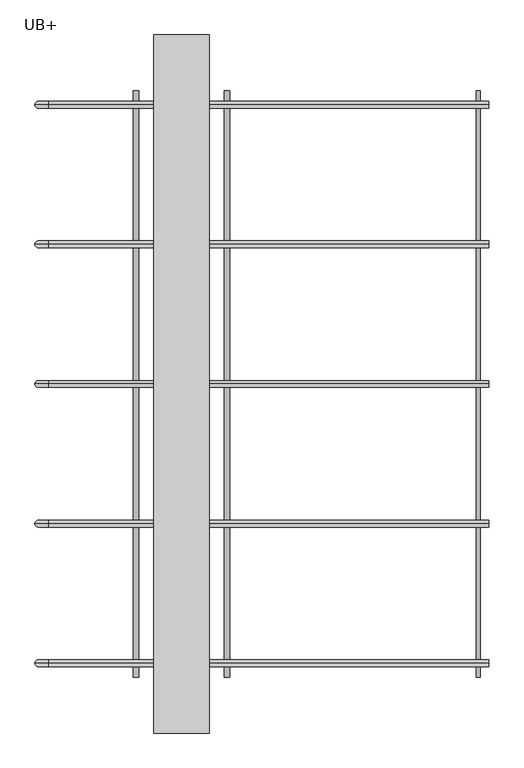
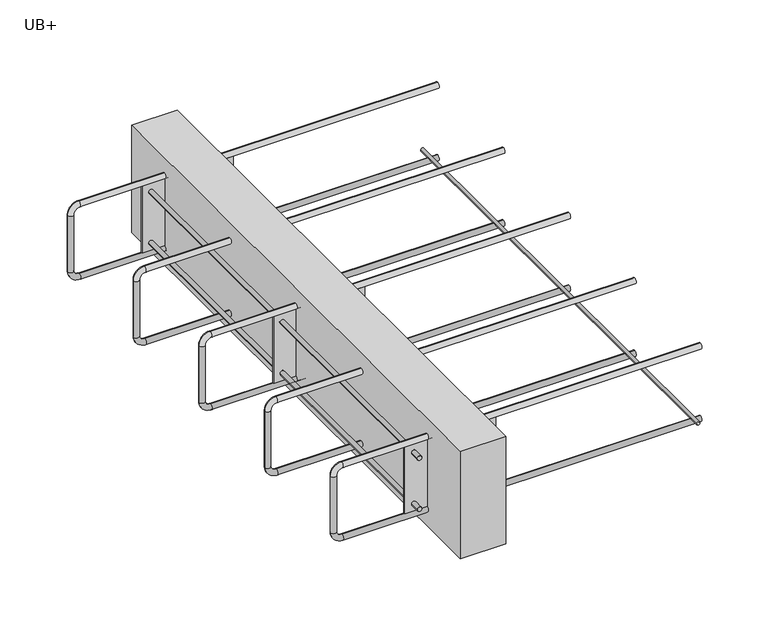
"""IFC4 building model written with IfcOpenShell, lengths in millimetres: fastener geometry, ACINOXplus_Typenreihe_Ux-Ox : UB+."""

from ifc_helpers import new_model, si_unit, point, frame, frame_2d, origin, place, context, project, spatial, polyline, circle_curve, ellipse_curve, trimmed, segment, composite_curve, outline, extrude, source, transform, mapped, element, save
from ifc_brep_helpers import plane_surface, cylinder_surface, revolved_surface, advanced_brep


def ub_eebb4c11(model_context):
    return source(origin(), model_context, "Body", "SolidModel", [
        extrude(outline(composite_curve([segment(trimmed(circle_curve(frame_2d((-159.5, 425.0)), 3.0), [point((-159.5, 428.0))], [point((-159.5, 422.0))], False, "CARTESIAN"), True, "CONTINUOUS"), segment(trimmed(circle_curve(frame_2d((-159.5, 425.0)), 3.0), [point((-159.5, 422.0))], [point((-159.5, 428.0))], False, "CARTESIAN"), True, "CONTINUOUS")], self_intersect=False)), frame((0.0, -420.0, 0.0), z_axis=(0.0, 1.0, 0.0), x_axis=(0.0, 0.0, 1.0)), (0.0, 0.0, 1.0), 840.0),
        extrude(outline(polyline([(40.0, 500.0), (40.0, -500.0), (-40.0, -500.0), (-40.0, 500.0), (40.0, 500.0)])), frame((0.0, 0.0, -200.0), z_axis=(0.0, 0.0, 1.0), x_axis=(1.0, 0.0, 0.0)), (0.0, 0.0, 1.0), 200.0),
        extrude(outline(polyline([(80.0, 1.5), (80.0, -1.5), (-80.0, -1.5), (-80.0, 1.5), (80.0, 1.5)])), frame((0.0, 0.0, -162.5), z_axis=(0.0, 0.0, 1.0), x_axis=(1.0, 0.0, 0.0)), (0.0, 0.0, 1.0), 125.0),
        extrude(outline(polyline([(80.0, -398.5), (80.0, -401.5), (-80.0, -401.5), (-80.0, -398.5), (80.0, -398.5)])), frame((0.0, 0.0, -162.5), z_axis=(0.0, 0.0, 1.0), x_axis=(1.0, 0.0, 0.0)), (0.0, 0.0, 1.0), 125.0),
        extrude(outline(polyline([(80.0, 401.5), (80.0, 398.5), (-80.0, 398.5), (-80.0, 401.5), (80.0, 401.5)])), frame((0.0, 0.0, -162.5), z_axis=(0.0, 0.0, 1.0), x_axis=(1.0, 0.0, 0.0)), (0.0, 0.0, 1.0), 125.0),
        extrude(outline(composite_curve([segment(trimmed(circle_curve(frame_2d((-147.5, -65.0)), 4.0), [point((-147.5, -61.0))], [point((-147.5, -69.0))], False, "CARTESIAN"), True, "CONTINUOUS"), segment(trimmed(circle_curve(frame_2d((-147.5, -65.0)), 4.0), [point((-147.5, -69.0))], [point((-147.5, -61.0))], False, "CARTESIAN"), True, "CONTINUOUS")], self_intersect=False)), frame((0.0, -420.0, 0.0), z_axis=(0.0, 1.0, 0.0), x_axis=(0.0, 0.0, 1.0)), (0.0, 0.0, 1.0), 18.5),
        extrude(outline(composite_curve([segment(trimmed(circle_curve(frame_2d((-147.5, -65.0)), 4.0), [point((-147.5, -69.0))], [point((-147.5, -61.0))], False, "CARTESIAN"), True, "CONTINUOUS"), segment(trimmed(circle_curve(frame_2d((-147.5, -65.0)), 4.0), [point((-147.5, -61.0))], [point((-147.5, -69.0))], False, "CARTESIAN"), True, "CONTINUOUS")], self_intersect=False)), frame((0.0, -398.5, 0.0), z_axis=(0.0, 1.0, 0.0), x_axis=(0.0, 0.0, 1.0)), (0.0, 0.0, 1.0), 397.0),
        extrude(outline(composite_curve([segment(trimmed(circle_curve(frame_2d((-147.5, -65.0)), 4.0), [point((-147.5, -69.0))], [point((-147.5, -61.0))], False, "CARTESIAN"), True, "CONTINUOUS"), segment(trimmed(circle_curve(frame_2d((-147.5, -65.0)), 4.0), [point((-147.5, -61.0))], [point((-147.5, -69.0))], False, "CARTESIAN"), True, "CONTINUOUS")], self_intersect=False)), frame((0.0, 401.5, 0.0), z_axis=(0.0, 1.0, 0.0), x_axis=(0.0, 0.0, 1.0)), (0.0, 0.0, 1.0), 18.5),
        extrude(outline(composite_curve([segment(trimmed(circle_curve(frame_2d((-147.5, -65.0)), 4.0), [point((-147.5, -69.0))], [point((-147.5, -61.0))], False, "CARTESIAN"), True, "CONTINUOUS"), segment(trimmed(circle_curve(frame_2d((-147.5, -65.0)), 4.0), [point((-147.5, -61.0))], [point((-147.5, -69.0))], False, "CARTESIAN"), True, "CONTINUOUS")], self_intersect=False)), frame((0.0, 1.5, 0.0), z_axis=(0.0, 1.0, 0.0), x_axis=(0.0, 0.0, 1.0)), (0.0, 0.0, 1.0), 397.0),
        extrude(outline(composite_curve([segment(trimmed(circle_curve(frame_2d((-147.5, 65.0)), 4.0), [point((-147.5, 69.0))], [point((-147.5, 61.0))], False, "CARTESIAN"), True, "CONTINUOUS"), segment(trimmed(circle_curve(frame_2d((-147.5, 65.0)), 4.0), [point((-147.5, 61.0))], [point((-147.5, 69.0))], False, "CARTESIAN"), True, "CONTINUOUS")], self_intersect=False)), frame((0.0, -420.0, 0.0), z_axis=(0.0, 1.0, 0.0), x_axis=(0.0, 0.0, 1.0)), (0.0, 0.0, 1.0), 18.5),
        extrude(outline(composite_curve([segment(trimmed(circle_curve(frame_2d((-147.5, 65.0)), 4.0), [point((-147.5, 61.0))], [point((-147.5, 69.0))], False, "CARTESIAN"), True, "CONTINUOUS"), segment(trimmed(circle_curve(frame_2d((-147.5, 65.0)), 4.0), [point((-147.5, 69.0))], [point((-147.5, 61.0))], False, "CARTESIAN"), True, "CONTINUOUS")], self_intersect=False)), frame((0.0, -398.5, 0.0), z_axis=(0.0, 1.0, 0.0), x_axis=(0.0, 0.0, 1.0)), (0.0, 0.0, 1.0), 397.0),
        extrude(outline(composite_curve([segment(trimmed(circle_curve(frame_2d((-147.5, 65.0)), 4.0), [point((-147.5, 61.0))], [point((-147.5, 69.0))], False, "CARTESIAN"), True, "CONTINUOUS"), segment(trimmed(circle_curve(frame_2d((-147.5, 65.0)), 4.0), [point((-147.5, 69.0))], [point((-147.5, 61.0))], False, "CARTESIAN"), True, "CONTINUOUS")], self_intersect=False)), frame((0.0, 401.5, 0.0), z_axis=(0.0, 1.0, 0.0), x_axis=(0.0, 0.0, 1.0)), (0.0, 0.0, 1.0), 18.5),
        extrude(outline(composite_curve([segment(trimmed(circle_curve(frame_2d((-147.5, 65.0)), 4.0), [point((-147.5, 61.0))], [point((-147.5, 69.0))], False, "CARTESIAN"), True, "CONTINUOUS"), segment(trimmed(circle_curve(frame_2d((-147.5, 65.0)), 4.0), [point((-147.5, 69.0))], [point((-147.5, 61.0))], False, "CARTESIAN"), True, "CONTINUOUS")], self_intersect=False)), frame((0.0, 1.5, 0.0), z_axis=(0.0, 1.0, 0.0), x_axis=(0.0, 0.0, 1.0)), (0.0, 0.0, 1.0), 397.0),
        extrude(outline(composite_curve([segment(trimmed(circle_curve(frame_2d((-52.5, -65.0)), 4.0), [point((-52.5, -69.0))], [point((-52.5, -61.0))], False, "CARTESIAN"), True, "CONTINUOUS"), segment(trimmed(circle_curve(frame_2d((-52.5, -65.0)), 4.0), [point((-52.5, -61.0))], [point((-52.5, -69.0))], False, "CARTESIAN"), True, "CONTINUOUS")], self_intersect=False)), frame((0.0, 401.5, 0.0), z_axis=(0.0, 1.0, 0.0), x_axis=(0.0, 0.0, 1.0)), (0.0, 0.0, 1.0), 18.5),
        extrude(outline(composite_curve([segment(trimmed(circle_curve(frame_2d((-52.5, -65.0)), 4.0), [point((-52.5, -61.0))], [point((-52.5, -69.0))], False, "CARTESIAN"), True, "CONTINUOUS"), segment(trimmed(circle_curve(frame_2d((-52.5, -65.0)), 4.0), [point((-52.5, -69.0))], [point((-52.5, -61.0))], False, "CARTESIAN"), True, "CONTINUOUS")], self_intersect=False)), frame((0.0, -420.0, 0.0), z_axis=(0.0, 1.0, 0.0), x_axis=(0.0, 0.0, 1.0)), (0.0, 0.0, 1.0), 18.5),
        extrude(outline(composite_curve([segment(trimmed(circle_curve(frame_2d((-52.5, -65.0)), 4.0), [point((-52.5, -69.0))], [point((-52.5, -61.0))], False, "CARTESIAN"), True, "CONTINUOUS"), segment(trimmed(circle_curve(frame_2d((-52.5, -65.0)), 4.0), [point((-52.5, -61.0))], [point((-52.5, -69.0))], False, "CARTESIAN"), True, "CONTINUOUS")], self_intersect=False)), frame((0.0, -398.5, 0.0), z_axis=(0.0, 1.0, 0.0), x_axis=(0.0, 0.0, 1.0)), (0.0, 0.0, 1.0), 397.0),
        extrude(outline(composite_curve([segment(trimmed(circle_curve(frame_2d((-52.5, -65.0)), 4.0), [point((-52.5, -69.0))], [point((-52.5, -61.0))], False, "CARTESIAN"), True, "CONTINUOUS"), segment(trimmed(circle_curve(frame_2d((-52.5, -65.0)), 4.0), [point((-52.5, -61.0))], [point((-52.5, -69.0))], False, "CARTESIAN"), True, "CONTINUOUS")], self_intersect=False)), frame((0.0, 1.5, 0.0), z_axis=(0.0, 1.0, 0.0), x_axis=(0.0, 0.0, 1.0)), (0.0, 0.0, 1.0), 397.0),
        extrude(outline(composite_curve([segment(trimmed(circle_curve(frame_2d((-52.5, 65.0)), 4.0), [point((-52.5, 61.0))], [point((-52.5, 69.0))], False, "CARTESIAN"), True, "CONTINUOUS"), segment(trimmed(circle_curve(frame_2d((-52.5, 65.0)), 4.0), [point((-52.5, 69.0))], [point((-52.5, 61.0))], False, "CARTESIAN"), True, "CONTINUOUS")], self_intersect=False)), frame((0.0, 401.5, 0.0), z_axis=(0.0, 1.0, 0.0), x_axis=(0.0, 0.0, 1.0)), (0.0, 0.0, 1.0), 18.5),
        extrude(outline(composite_curve([segment(trimmed(circle_curve(frame_2d((-52.5, 65.0)), 4.0), [point((-52.5, 69.0))], [point((-52.5, 61.0))], False, "CARTESIAN"), True, "CONTINUOUS"), segment(trimmed(circle_curve(frame_2d((-52.5, 65.0)), 4.0), [point((-52.5, 61.0))], [point((-52.5, 69.0))], False, "CARTESIAN"), True, "CONTINUOUS")], self_intersect=False)), frame((0.0, -420.0, 0.0), z_axis=(0.0, 1.0, 0.0), x_axis=(0.0, 0.0, 1.0)), (0.0, 0.0, 1.0), 18.5),
        extrude(outline(composite_curve([segment(trimmed(circle_curve(frame_2d((-52.5, 65.0)), 4.0), [point((-52.5, 61.0))], [point((-52.5, 69.0))], False, "CARTESIAN"), True, "CONTINUOUS"), segment(trimmed(circle_curve(frame_2d((-52.5, 65.0)), 4.0), [point((-52.5, 69.0))], [point((-52.5, 61.0))], False, "CARTESIAN"), True, "CONTINUOUS")], self_intersect=False)), frame((0.0, -398.5, 0.0), z_axis=(0.0, 1.0, 0.0), x_axis=(0.0, 0.0, 1.0)), (0.0, 0.0, 1.0), 397.0),
        extrude(outline(composite_curve([segment(trimmed(circle_curve(frame_2d((-52.5, 65.0)), 4.0), [point((-52.5, 61.0))], [point((-52.5, 69.0))], False, "CARTESIAN"), True, "CONTINUOUS"), segment(trimmed(circle_curve(frame_2d((-52.5, 65.0)), 4.0), [point((-52.5, 69.0))], [point((-52.5, 61.0))], False, "CARTESIAN"), True, "CONTINUOUS")], self_intersect=False)), frame((0.0, 1.5, 0.0), z_axis=(0.0, 1.0, 0.0), x_axis=(0.0, 0.0, 1.0)), (0.0, 0.0, 1.0), 397.0),
        advanced_brep(
        [(440.0, 200.0, -27.5), (440.0, 200.0, -37.5), (-190.0, 200.0, -27.5), (-190.0, 200.0, -37.5), (-200.0, 200.0, -47.5), (-210.0, 200.0, -47.5), (-210.0, 200.0, -152.5), (-200.0, 200.0, -152.5), (-190.0, 200.0, -162.5), (-190.0, 200.0, -172.5), (440.0, 200.0, -172.5), (440.0, 200.0, -162.5)],
        [
            (0, 1, circle_curve(frame((440.0, 200.0, -32.5), z_axis=(1.0, 0.0, 0.0), x_axis=(0.0, 0.0, -1.0)), 5.0)),
            (1, 0, circle_curve(frame((440.0, 200.0, -32.5), z_axis=(1.0, 0.0, 0.0), x_axis=(0.0, 0.0, -1.0)), 5.0)),
            (0, 2),
            (2, 3, circle_curve(frame((-190.0, 200.0, -32.5), z_axis=(1.0, 0.0, 0.0), x_axis=(0.0, 0.0, -1.0)), 5.0)),
            (3, 1),
            (3, 2, circle_curve(frame((-190.0, 200.0, -32.5), z_axis=(1.0, 0.0, 0.0), x_axis=(0.0, 0.0, -1.0)), 5.0)),
            (4, 3, circle_curve(frame((-190.0, 200.0, -47.5), z_axis=(0.0, 1.0, 0.0), x_axis=(0.0, 0.0, 1.0)), 10.0)),
            (2, 5, circle_curve(frame((-190.0, 200.0, -47.5), z_axis=(0.0, -1.0, 0.0), x_axis=(0.0, 0.0, 1.0)), 20.0)),
            (5, 4, circle_curve(frame((-205.0, 200.0, -47.5), z_axis=(0.0, 0.0, 1.0), x_axis=(1.0, 0.0, 0.0)), 5.0)),
            (4, 5, circle_curve(frame((-205.0, 200.0, -47.5), z_axis=(0.0, 0.0, 1.0), x_axis=(1.0, 0.0, 0.0)), 5.0)),
            (5, 6),
            (6, 7, circle_curve(frame((-205.0, 200.0, -152.5), z_axis=(0.0, 0.0, 1.0), x_axis=(1.0, 0.0, 0.0)), 5.0)),
            (7, 4),
            (7, 6, circle_curve(frame((-205.0, 200.0, -152.5), z_axis=(0.0, 0.0, 1.0), x_axis=(1.0, 0.0, 0.0)), 5.0)),
            (8, 7, circle_curve(frame((-190.0, 200.0, -152.5), z_axis=(0.0, 1.0, 0.0), x_axis=(-1.0, 0.0, 0.0)), 10.0)),
            (6, 9, circle_curve(frame((-190.0, 200.0, -152.5), z_axis=(0.0, -1.0, 0.0), x_axis=(-1.0, 0.0, 0.0)), 20.0)),
            (9, 8, circle_curve(frame((-190.0, 200.0, -167.5), z_axis=(-1.0, 0.0, 0.0), x_axis=(0.0, 0.0, 1.0)), 5.0)),
            (8, 9, circle_curve(frame((-190.0, 200.0, -167.5), z_axis=(-1.0, 0.0, 0.0), x_axis=(0.0, 0.0, 1.0)), 5.0)),
            (10, 11, circle_curve(frame((440.0, 200.0, -167.5), z_axis=(1.0, 0.0, 0.0), x_axis=(0.0, 0.0, 1.0)), 5.0)),
            (11, 10, circle_curve(frame((440.0, 200.0, -167.5), z_axis=(1.0, 0.0, 0.0), x_axis=(0.0, 0.0, 1.0)), 5.0)),
            (9, 10),
            (11, 8),
        ],
        [
            plane_surface(frame((440.0, 200.0, -32.5), z_axis=(1.0, 0.0, 0.0), x_axis=(0.0, -1.0, 0.0))),
            cylinder_surface(frame((440.0, 200.0, -32.5), z_axis=(1.0, 0.0, 0.0), x_axis=(0.0, 0.0, -1.0)), 5.0),
            revolved_surface(trimmed(ellipse_curve(frame((-190.0, 200.0, -32.5), z_axis=(1.0, 0.0, 0.0), x_axis=(0.0, 0.0, -1.0)), 5.0, 5.0), [point((-190.0, 200.0, -27.5))], [point((-190.0, 200.0, -37.5))], True, "CARTESIAN"), (-190.0, 200.0, -47.5), (0.0, -1.0, 0.0)),
            revolved_surface(trimmed(ellipse_curve(frame((-190.0, 200.0, -32.5), z_axis=(1.0, 0.0, 0.0), x_axis=(0.0, 0.0, -1.0)), 5.0, 5.0), [point((-190.0, 200.0, -37.5))], [point((-190.0, 200.0, -27.5))], True, "CARTESIAN"), (-190.0, 200.0, -47.5), (0.0, -1.0, 0.0)),
            cylinder_surface(frame((-205.0, 200.0, -47.5), z_axis=(0.0, 0.0, 1.0), x_axis=(1.0, 0.0, 0.0)), 5.0),
            revolved_surface(trimmed(ellipse_curve(frame((-205.0, 200.0, -152.5), z_axis=(0.0, 0.0, 1.0), x_axis=(1.0, 0.0, 0.0)), 5.0, 5.0), [point((-210.0, 200.0, -152.5))], [point((-200.0, 200.0, -152.5))], True, "CARTESIAN"), (-190.0, 200.0, -152.5), (0.0, -1.0, 0.0)),
            revolved_surface(trimmed(ellipse_curve(frame((-205.0, 200.0, -152.5), z_axis=(0.0, 0.0, 1.0), x_axis=(1.0, 0.0, 0.0)), 5.0, 5.0), [point((-200.0, 200.0, -152.5))], [point((-210.0, 200.0, -152.5))], True, "CARTESIAN"), (-190.0, 200.0, -152.5), (0.0, -1.0, 0.0)),
            plane_surface(frame((440.0, 200.0, -167.5), z_axis=(1.0, 0.0, 0.0), x_axis=(0.0, -1.0, 0.0))),
            cylinder_surface(frame((-190.0, 200.0, -167.5), z_axis=(-1.0, 0.0, 0.0), x_axis=(0.0, 0.0, 1.0)), 5.0),
        ],
        [
            (0, [[1, 2]]),
            (1, [[-1, 3, 4, 5]]),
            (1, [[-2, -5, 6, -3]]),
            (2, [[7, -4, 8, 9]]),
            (3, [[-8, -6, -7, 10]]),
            (4, [[-9, 11, 12, 13]]),
            (4, [[-10, -13, 14, -11]]),
            (5, [[15, -12, 16, 17]]),
            (6, [[-16, -14, -15, 18]]),
            (7, [[19, 20]]),
            (8, [[-17, 21, -20, 22]]),
            (8, [[-18, -22, -19, -21]]),
        ],
    ),
        advanced_brep(
        [(440.0, 0.0, -27.5), (440.0, 0.0, -37.5), (-190.0, 0.0, -27.5), (-190.0, 0.0, -37.5), (-200.0, 0.0, -47.5), (-210.0, 0.0, -47.5), (-210.0, 0.0, -152.5), (-200.0, 0.0, -152.5), (-190.0, 0.0, -162.5), (-190.0, 0.0, -172.5), (440.0, 0.0, -172.5), (440.0, 0.0, -162.5)],
        [
            (0, 1, circle_curve(frame((440.0, 0.0, -32.5), z_axis=(1.0, 0.0, 0.0), x_axis=(0.0, 0.0, -1.0)), 5.0)),
            (1, 0, circle_curve(frame((440.0, 0.0, -32.5), z_axis=(1.0, 0.0, 0.0), x_axis=(0.0, 0.0, -1.0)), 5.0)),
            (0, 2),
            (2, 3, circle_curve(frame((-190.0, 0.0, -32.5), z_axis=(1.0, 0.0, 0.0), x_axis=(0.0, 0.0, -1.0)), 5.0)),
            (3, 1),
            (3, 2, circle_curve(frame((-190.0, 0.0, -32.5), z_axis=(1.0, 0.0, 0.0), x_axis=(0.0, 0.0, -1.0)), 5.0)),
            (4, 3, circle_curve(frame((-190.0, 0.0, -47.5), z_axis=(0.0, 1.0, 0.0), x_axis=(0.0, 0.0, 1.0)), 10.0)),
            (2, 5, circle_curve(frame((-190.0, 0.0, -47.5), z_axis=(0.0, -1.0, 0.0), x_axis=(0.0, 0.0, 1.0)), 20.0)),
            (5, 4, circle_curve(frame((-205.0, 0.0, -47.5), z_axis=(0.0, 0.0, 1.0), x_axis=(1.0, 0.0, 0.0)), 5.0)),
            (4, 5, circle_curve(frame((-205.0, 0.0, -47.5), z_axis=(0.0, 0.0, 1.0), x_axis=(1.0, 0.0, 0.0)), 5.0)),
            (5, 6),
            (6, 7, circle_curve(frame((-205.0, 0.0, -152.5), z_axis=(0.0, 0.0, 1.0), x_axis=(1.0, 0.0, 0.0)), 5.0)),
            (7, 4),
            (7, 6, circle_curve(frame((-205.0, 0.0, -152.5), z_axis=(0.0, 0.0, 1.0), x_axis=(1.0, 0.0, 0.0)), 5.0)),
            (8, 7, circle_curve(frame((-190.0, 0.0, -152.5), z_axis=(0.0, 1.0, 0.0), x_axis=(-1.0, 0.0, 0.0)), 10.0)),
            (6, 9, circle_curve(frame((-190.0, 0.0, -152.5), z_axis=(0.0, -1.0, 0.0), x_axis=(-1.0, 0.0, 0.0)), 20.0)),
            (9, 8, circle_curve(frame((-190.0, 0.0, -167.5), z_axis=(-1.0, 0.0, 0.0), x_axis=(0.0, 0.0, 1.0)), 5.0)),
            (8, 9, circle_curve(frame((-190.0, 0.0, -167.5), z_axis=(-1.0, 0.0, 0.0), x_axis=(0.0, 0.0, 1.0)), 5.0)),
            (10, 11, circle_curve(frame((440.0, 0.0, -167.5), z_axis=(1.0, 0.0, 0.0), x_axis=(0.0, 0.0, 1.0)), 5.0)),
            (11, 10, circle_curve(frame((440.0, 0.0, -167.5), z_axis=(1.0, 0.0, 0.0), x_axis=(0.0, 0.0, 1.0)), 5.0)),
            (9, 10),
            (11, 8),
        ],
        [
            plane_surface(frame((440.0, 0.0, -32.5), z_axis=(1.0, 0.0, 0.0), x_axis=(0.0, -1.0, 0.0))),
            cylinder_surface(frame((440.0, 0.0, -32.5), z_axis=(1.0, 0.0, 0.0), x_axis=(0.0, 0.0, -1.0)), 5.0),
            revolved_surface(trimmed(ellipse_curve(frame((-190.0, 0.0, -32.5), z_axis=(1.0, 0.0, 0.0), x_axis=(0.0, 0.0, -1.0)), 5.0, 5.0), [point((-190.0, 0.0, -27.5))], [point((-190.0, 0.0, -37.5))], True, "CARTESIAN"), (-190.0, 0.0, -47.5), (0.0, -1.0, 0.0)),
            revolved_surface(trimmed(ellipse_curve(frame((-190.0, 0.0, -32.5), z_axis=(1.0, 0.0, 0.0), x_axis=(0.0, 0.0, -1.0)), 5.0, 5.0), [point((-190.0, 0.0, -37.5))], [point((-190.0, 0.0, -27.5))], True, "CARTESIAN"), (-190.0, 0.0, -47.5), (0.0, -1.0, 0.0)),
            cylinder_surface(frame((-205.0, 0.0, -47.5), z_axis=(0.0, 0.0, 1.0), x_axis=(1.0, 0.0, 0.0)), 5.0),
            revolved_surface(trimmed(ellipse_curve(frame((-205.0, 0.0, -152.5), z_axis=(0.0, 0.0, 1.0), x_axis=(1.0, 0.0, 0.0)), 5.0, 5.0), [point((-210.0, 0.0, -152.5))], [point((-200.0, 0.0, -152.5))], True, "CARTESIAN"), (-190.0, 0.0, -152.5), (0.0, -1.0, 0.0)),
            revolved_surface(trimmed(ellipse_curve(frame((-205.0, 0.0, -152.5), z_axis=(0.0, 0.0, 1.0), x_axis=(1.0, 0.0, 0.0)), 5.0, 5.0), [point((-200.0, 0.0, -152.5))], [point((-210.0, 0.0, -152.5))], True, "CARTESIAN"), (-190.0, 0.0, -152.5), (0.0, -1.0, 0.0)),
            plane_surface(frame((440.0, 0.0, -167.5), z_axis=(1.0, 0.0, 0.0), x_axis=(0.0, -1.0, 0.0))),
            cylinder_surface(frame((-190.0, 0.0, -167.5), z_axis=(-1.0, 0.0, 0.0), x_axis=(0.0, 0.0, 1.0)), 5.0),
        ],
        [
            (0, [[1, 2]]),
            (1, [[-1, 3, 4, 5]]),
            (1, [[-2, -5, 6, -3]]),
            (2, [[7, -4, 8, 9]]),
            (3, [[-8, -6, -7, 10]]),
            (4, [[-9, 11, 12, 13]]),
            (4, [[-10, -13, 14, -11]]),
            (5, [[15, -12, 16, 17]]),
            (6, [[-16, -14, -15, 18]]),
            (7, [[19, 20]]),
            (8, [[-17, 21, -20, 22]]),
            (8, [[-18, -22, -19, -21]]),
        ],
    ),
        advanced_brep(
        [(440.0, -200.0, -27.5), (440.0, -200.0, -37.5), (-190.0, -200.0, -27.5), (-190.0, -200.0, -37.5), (-200.0, -200.0, -47.5), (-210.0, -200.0, -47.5), (-210.0, -200.0, -152.5), (-200.0, -200.0, -152.5), (-190.0, -200.0, -162.5), (-190.0, -200.0, -172.5), (440.0, -200.0, -172.5), (440.0, -200.0, -162.5)],
        [
            (0, 1, circle_curve(frame((440.0, -200.0, -32.5), z_axis=(1.0, 0.0, 0.0), x_axis=(0.0, 0.0, -1.0)), 5.0)),
            (1, 0, circle_curve(frame((440.0, -200.0, -32.5), z_axis=(1.0, 0.0, 0.0), x_axis=(0.0, 0.0, -1.0)), 5.0)),
            (0, 2),
            (2, 3, circle_curve(frame((-190.0, -200.0, -32.5), z_axis=(1.0, 0.0, 0.0), x_axis=(0.0, 0.0, -1.0)), 5.0)),
            (3, 1),
            (3, 2, circle_curve(frame((-190.0, -200.0, -32.5), z_axis=(1.0, 0.0, 0.0), x_axis=(0.0, 0.0, -1.0)), 5.0)),
            (4, 3, circle_curve(frame((-190.0, -200.0, -47.5), z_axis=(0.0, 1.0, 0.0), x_axis=(0.0, 0.0, 1.0)), 10.0)),
            (2, 5, circle_curve(frame((-190.0, -200.0, -47.5), z_axis=(0.0, -1.0, 0.0), x_axis=(0.0, 0.0, 1.0)), 20.0)),
            (5, 4, circle_curve(frame((-205.0, -200.0, -47.5), z_axis=(0.0, 0.0, 1.0), x_axis=(1.0, 0.0, 0.0)), 5.0)),
            (4, 5, circle_curve(frame((-205.0, -200.0, -47.5), z_axis=(0.0, 0.0, 1.0), x_axis=(1.0, 0.0, 0.0)), 5.0)),
            (5, 6),
            (6, 7, circle_curve(frame((-205.0, -200.0, -152.5), z_axis=(0.0, 0.0, 1.0), x_axis=(1.0, 0.0, 0.0)), 5.0)),
            (7, 4),
            (7, 6, circle_curve(frame((-205.0, -200.0, -152.5), z_axis=(0.0, 0.0, 1.0), x_axis=(1.0, 0.0, 0.0)), 5.0)),
            (8, 7, circle_curve(frame((-190.0, -200.0, -152.5), z_axis=(0.0, 1.0, 0.0), x_axis=(-1.0, 0.0, 0.0)), 10.0)),
            (6, 9, circle_curve(frame((-190.0, -200.0, -152.5), z_axis=(0.0, -1.0, 0.0), x_axis=(-1.0, 0.0, 0.0)), 20.0)),
            (9, 8, circle_curve(frame((-190.0, -200.0, -167.5), z_axis=(-1.0, 0.0, 0.0), x_axis=(0.0, 0.0, 1.0)), 5.0)),
            (8, 9, circle_curve(frame((-190.0, -200.0, -167.5), z_axis=(-1.0, 0.0, 0.0), x_axis=(0.0, 0.0, 1.0)), 5.0)),
            (10, 11, circle_curve(frame((440.0, -200.0, -167.5), z_axis=(1.0, 0.0, 0.0), x_axis=(0.0, 0.0, 1.0)), 5.0)),
            (11, 10, circle_curve(frame((440.0, -200.0, -167.5), z_axis=(1.0, 0.0, 0.0), x_axis=(0.0, 0.0, 1.0)), 5.0)),
            (9, 10),
            (11, 8),
        ],
        [
            plane_surface(frame((440.0, -200.0, -32.5), z_axis=(1.0, 0.0, 0.0), x_axis=(0.0, -1.0, 0.0))),
            cylinder_surface(frame((440.0, -200.0, -32.5), z_axis=(1.0, 0.0, 0.0), x_axis=(0.0, 0.0, -1.0)), 5.0),
            revolved_surface(trimmed(ellipse_curve(frame((-190.0, -200.0, -32.5), z_axis=(1.0, 0.0, 0.0), x_axis=(0.0, 0.0, -1.0)), 5.0, 5.0), [point((-190.0, -200.0, -27.5))], [point((-190.0, -200.0, -37.5))], True, "CARTESIAN"), (-190.0, -200.0, -47.5), (0.0, -1.0, 0.0)),
            revolved_surface(trimmed(ellipse_curve(frame((-190.0, -200.0, -32.5), z_axis=(1.0, 0.0, 0.0), x_axis=(0.0, 0.0, -1.0)), 5.0, 5.0), [point((-190.0, -200.0, -37.5))], [point((-190.0, -200.0, -27.5))], True, "CARTESIAN"), (-190.0, -200.0, -47.5), (0.0, -1.0, 0.0)),
            cylinder_surface(frame((-205.0, -200.0, -47.5), z_axis=(0.0, 0.0, 1.0), x_axis=(1.0, 0.0, 0.0)), 5.0),
            revolved_surface(trimmed(ellipse_curve(frame((-205.0, -200.0, -152.5), z_axis=(0.0, 0.0, 1.0), x_axis=(1.0, 0.0, 0.0)), 5.0, 5.0), [point((-210.0, -200.0, -152.5))], [point((-200.0, -200.0, -152.5))], True, "CARTESIAN"), (-190.0, -200.0, -152.5), (0.0, -1.0, 0.0)),
            revolved_surface(trimmed(ellipse_curve(frame((-205.0, -200.0, -152.5), z_axis=(0.0, 0.0, 1.0), x_axis=(1.0, 0.0, 0.0)), 5.0, 5.0), [point((-200.0, -200.0, -152.5))], [point((-210.0, -200.0, -152.5))], True, "CARTESIAN"), (-190.0, -200.0, -152.5), (0.0, -1.0, 0.0)),
            plane_surface(frame((440.0, -200.0, -167.5), z_axis=(1.0, 0.0, 0.0), x_axis=(0.0, -1.0, 0.0))),
            cylinder_surface(frame((-190.0, -200.0, -167.5), z_axis=(-1.0, 0.0, 0.0), x_axis=(0.0, 0.0, 1.0)), 5.0),
        ],
        [
            (0, [[1, 2]]),
            (1, [[-1, 3, 4, 5]]),
            (1, [[-2, -5, 6, -3]]),
            (2, [[7, -4, 8, 9]]),
            (3, [[-8, -6, -7, 10]]),
            (4, [[-9, 11, 12, 13]]),
            (4, [[-10, -13, 14, -11]]),
            (5, [[15, -12, 16, 17]]),
            (6, [[-16, -14, -15, 18]]),
            (7, [[19, 20]]),
            (8, [[-17, 21, -20, 22]]),
            (8, [[-18, -22, -19, -21]]),
        ],
    ),
        advanced_brep(
        [(440.0, 400.0, -27.5), (440.0, 400.0, -37.5), (-190.0, 400.0, -27.5), (-190.0, 400.0, -37.5), (-200.0, 400.0, -47.5), (-210.0, 400.0, -47.5), (-210.0, 400.0, -152.5), (-200.0, 400.0, -152.5), (-190.0, 400.0, -162.5), (-190.0, 400.0, -172.5), (440.0, 400.0, -172.5), (440.0, 400.0, -162.5)],
        [
            (0, 1, circle_curve(frame((440.0, 400.0, -32.5), z_axis=(1.0, 0.0, 0.0), x_axis=(0.0, 0.0, -1.0)), 5.0)),
            (1, 0, circle_curve(frame((440.0, 400.0, -32.5), z_axis=(1.0, 0.0, 0.0), x_axis=(0.0, 0.0, -1.0)), 5.0)),
            (0, 2),
            (2, 3, circle_curve(frame((-190.0, 400.0, -32.5), z_axis=(1.0, 0.0, 0.0), x_axis=(0.0, 0.0, -1.0)), 5.0)),
            (3, 1),
            (3, 2, circle_curve(frame((-190.0, 400.0, -32.5), z_axis=(1.0, 0.0, 0.0), x_axis=(0.0, 0.0, -1.0)), 5.0)),
            (4, 3, circle_curve(frame((-190.0, 400.0, -47.5), z_axis=(0.0, 1.0, 0.0), x_axis=(0.0, 0.0, 1.0)), 10.0)),
            (2, 5, circle_curve(frame((-190.0, 400.0, -47.5), z_axis=(0.0, -1.0, 0.0), x_axis=(0.0, 0.0, 1.0)), 20.0)),
            (5, 4, circle_curve(frame((-205.0, 400.0, -47.5), z_axis=(0.0, 0.0, 1.0), x_axis=(1.0, 0.0, 0.0)), 5.0)),
            (4, 5, circle_curve(frame((-205.0, 400.0, -47.5), z_axis=(0.0, 0.0, 1.0), x_axis=(1.0, 0.0, 0.0)), 5.0)),
            (5, 6),
            (6, 7, circle_curve(frame((-205.0, 400.0, -152.5), z_axis=(0.0, 0.0, 1.0), x_axis=(1.0, 0.0, 0.0)), 5.0)),
            (7, 4),
            (7, 6, circle_curve(frame((-205.0, 400.0, -152.5), z_axis=(0.0, 0.0, 1.0), x_axis=(1.0, 0.0, 0.0)), 5.0)),
            (8, 7, circle_curve(frame((-190.0, 400.0, -152.5), z_axis=(0.0, 1.0, 0.0), x_axis=(-1.0, 0.0, 0.0)), 10.0)),
            (6, 9, circle_curve(frame((-190.0, 400.0, -152.5), z_axis=(0.0, -1.0, 0.0), x_axis=(-1.0, 0.0, 0.0)), 20.0)),
            (9, 8, circle_curve(frame((-190.0, 400.0, -167.5), z_axis=(-1.0, 0.0, 0.0), x_axis=(0.0, 0.0, 1.0)), 5.0)),
            (8, 9, circle_curve(frame((-190.0, 400.0, -167.5), z_axis=(-1.0, 0.0, 0.0), x_axis=(0.0, 0.0, 1.0)), 5.0)),
            (10, 11, circle_curve(frame((440.0, 400.0, -167.5), z_axis=(1.0, 0.0, 0.0), x_axis=(0.0, 0.0, 1.0)), 5.0)),
            (11, 10, circle_curve(frame((440.0, 400.0, -167.5), z_axis=(1.0, 0.0, 0.0), x_axis=(0.0, 0.0, 1.0)), 5.0)),
            (9, 10),
            (11, 8),
        ],
        [
            plane_surface(frame((440.0, 400.0, -32.5), z_axis=(1.0, 0.0, 0.0), x_axis=(0.0, -1.0, 0.0))),
            cylinder_surface(frame((440.0, 400.0, -32.5), z_axis=(1.0, 0.0, 0.0), x_axis=(0.0, 0.0, -1.0)), 5.0),
            revolved_surface(trimmed(ellipse_curve(frame((-190.0, 400.0, -32.5), z_axis=(1.0, 0.0, 0.0), x_axis=(0.0, 0.0, -1.0)), 5.0, 5.0), [point((-190.0, 400.0, -27.5))], [point((-190.0, 400.0, -37.5))], True, "CARTESIAN"), (-190.0, 400.0, -47.5), (0.0, -1.0, 0.0)),
            revolved_surface(trimmed(ellipse_curve(frame((-190.0, 400.0, -32.5), z_axis=(1.0, 0.0, 0.0), x_axis=(0.0, 0.0, -1.0)), 5.0, 5.0), [point((-190.0, 400.0, -37.5))], [point((-190.0, 400.0, -27.5))], True, "CARTESIAN"), (-190.0, 400.0, -47.5), (0.0, -1.0, 0.0)),
            cylinder_surface(frame((-205.0, 400.0, -47.5), z_axis=(0.0, 0.0, 1.0), x_axis=(1.0, 0.0, 0.0)), 5.0),
            revolved_surface(trimmed(ellipse_curve(frame((-205.0, 400.0, -152.5), z_axis=(0.0, 0.0, 1.0), x_axis=(1.0, 0.0, 0.0)), 5.0, 5.0), [point((-210.0, 400.0, -152.5))], [point((-200.0, 400.0, -152.5))], True, "CARTESIAN"), (-190.0, 400.0, -152.5), (0.0, -1.0, 0.0)),
            revolved_surface(trimmed(ellipse_curve(frame((-205.0, 400.0, -152.5), z_axis=(0.0, 0.0, 1.0), x_axis=(1.0, 0.0, 0.0)), 5.0, 5.0), [point((-200.0, 400.0, -152.5))], [point((-210.0, 400.0, -152.5))], True, "CARTESIAN"), (-190.0, 400.0, -152.5), (0.0, -1.0, 0.0)),
            plane_surface(frame((440.0, 400.0, -167.5), z_axis=(1.0, 0.0, 0.0), x_axis=(0.0, -1.0, 0.0))),
            cylinder_surface(frame((-190.0, 400.0, -167.5), z_axis=(-1.0, 0.0, 0.0), x_axis=(0.0, 0.0, 1.0)), 5.0),
        ],
        [
            (0, [[1, 2]]),
            (1, [[-1, 3, 4, 5]]),
            (1, [[-2, -5, 6, -3]]),
            (2, [[7, -4, 8, 9]]),
            (3, [[-8, -6, -7, 10]]),
            (4, [[-9, 11, 12, 13]]),
            (4, [[-10, -13, 14, -11]]),
            (5, [[15, -12, 16, 17]]),
            (6, [[-16, -14, -15, 18]]),
            (7, [[19, 20]]),
            (8, [[-17, 21, -20, 22]]),
            (8, [[-18, -22, -19, -21]]),
        ],
    ),
        advanced_brep(
        [(440.0, -400.0, -27.5), (440.0, -400.0, -37.5), (-190.0, -400.0, -27.5), (-190.0, -400.0, -37.5), (-200.0, -400.0, -47.5), (-210.0, -400.0, -47.5), (-210.0, -400.0, -152.5), (-200.0, -400.0, -152.5), (-190.0, -400.0, -162.5), (-190.0, -400.0, -172.5), (440.0, -400.0, -172.5), (440.0, -400.0, -162.5)],
        [
            (0, 1, circle_curve(frame((440.0, -400.0, -32.5), z_axis=(1.0, 0.0, 0.0), x_axis=(0.0, 0.0, -1.0)), 5.0)),
            (1, 0, circle_curve(frame((440.0, -400.0, -32.5), z_axis=(1.0, 0.0, 0.0), x_axis=(0.0, 0.0, -1.0)), 5.0)),
            (0, 2),
            (2, 3, circle_curve(frame((-190.0, -400.0, -32.5), z_axis=(1.0, 0.0, 0.0), x_axis=(0.0, 0.0, -1.0)), 5.0)),
            (3, 1),
            (3, 2, circle_curve(frame((-190.0, -400.0, -32.5), z_axis=(1.0, 0.0, 0.0), x_axis=(0.0, 0.0, -1.0)), 5.0)),
            (4, 3, circle_curve(frame((-190.0, -400.0, -47.5), z_axis=(0.0, 1.0, 0.0), x_axis=(0.0, 0.0, 1.0)), 10.0)),
            (2, 5, circle_curve(frame((-190.0, -400.0, -47.5), z_axis=(0.0, -1.0, 0.0), x_axis=(0.0, 0.0, 1.0)), 20.0)),
            (5, 4, circle_curve(frame((-205.0, -400.0, -47.5), z_axis=(0.0, 0.0, 1.0), x_axis=(1.0, 0.0, 0.0)), 5.0)),
            (4, 5, circle_curve(frame((-205.0, -400.0, -47.5), z_axis=(0.0, 0.0, 1.0), x_axis=(1.0, 0.0, 0.0)), 5.0)),
            (5, 6),
            (6, 7, circle_curve(frame((-205.0, -400.0, -152.5), z_axis=(0.0, 0.0, 1.0), x_axis=(1.0, 0.0, 0.0)), 5.0)),
            (7, 4),
            (7, 6, circle_curve(frame((-205.0, -400.0, -152.5), z_axis=(0.0, 0.0, 1.0), x_axis=(1.0, 0.0, 0.0)), 5.0)),
            (8, 7, circle_curve(frame((-190.0, -400.0, -152.5), z_axis=(0.0, 1.0, 0.0), x_axis=(-1.0, 0.0, 0.0)), 10.0)),
            (6, 9, circle_curve(frame((-190.0, -400.0, -152.5), z_axis=(0.0, -1.0, 0.0), x_axis=(-1.0, 0.0, 0.0)), 20.0)),
            (9, 8, circle_curve(frame((-190.0, -400.0, -167.5), z_axis=(-1.0, 0.0, 0.0), x_axis=(0.0, 0.0, 1.0)), 5.0)),
            (8, 9, circle_curve(frame((-190.0, -400.0, -167.5), z_axis=(-1.0, 0.0, 0.0), x_axis=(0.0, 0.0, 1.0)), 5.0)),
            (10, 11, circle_curve(frame((440.0, -400.0, -167.5), z_axis=(1.0, 0.0, 0.0), x_axis=(0.0, 0.0, 1.0)), 5.0)),
            (11, 10, circle_curve(frame((440.0, -400.0, -167.5), z_axis=(1.0, 0.0, 0.0), x_axis=(0.0, 0.0, 1.0)), 5.0)),
            (9, 10),
            (11, 8),
        ],
        [
            plane_surface(frame((440.0, -400.0, -32.5), z_axis=(1.0, 0.0, 0.0), x_axis=(0.0, -1.0, 0.0))),
            cylinder_surface(frame((440.0, -400.0, -32.5), z_axis=(1.0, 0.0, 0.0), x_axis=(0.0, 0.0, -1.0)), 5.0),
            revolved_surface(trimmed(ellipse_curve(frame((-190.0, -400.0, -32.5), z_axis=(1.0, 0.0, 0.0), x_axis=(0.0, 0.0, -1.0)), 5.0, 5.0), [point((-190.0, -400.0, -27.5))], [point((-190.0, -400.0, -37.5))], True, "CARTESIAN"), (-190.0, -400.0, -47.5), (0.0, -1.0, 0.0)),
            revolved_surface(trimmed(ellipse_curve(frame((-190.0, -400.0, -32.5), z_axis=(1.0, 0.0, 0.0), x_axis=(0.0, 0.0, -1.0)), 5.0, 5.0), [point((-190.0, -400.0, -37.5))], [point((-190.0, -400.0, -27.5))], True, "CARTESIAN"), (-190.0, -400.0, -47.5), (0.0, -1.0, 0.0)),
            cylinder_surface(frame((-205.0, -400.0, -47.5), z_axis=(0.0, 0.0, 1.0), x_axis=(1.0, 0.0, 0.0)), 5.0),
            revolved_surface(trimmed(ellipse_curve(frame((-205.0, -400.0, -152.5), z_axis=(0.0, 0.0, 1.0), x_axis=(1.0, 0.0, 0.0)), 5.0, 5.0), [point((-210.0, -400.0, -152.5))], [point((-200.0, -400.0, -152.5))], True, "CARTESIAN"), (-190.0, -400.0, -152.5), (0.0, -1.0, 0.0)),
            revolved_surface(trimmed(ellipse_curve(frame((-205.0, -400.0, -152.5), z_axis=(0.0, 0.0, 1.0), x_axis=(1.0, 0.0, 0.0)), 5.0, 5.0), [point((-200.0, -400.0, -152.5))], [point((-210.0, -400.0, -152.5))], True, "CARTESIAN"), (-190.0, -400.0, -152.5), (0.0, -1.0, 0.0)),
            plane_surface(frame((440.0, -400.0, -167.5), z_axis=(1.0, 0.0, 0.0), x_axis=(0.0, -1.0, 0.0))),
            cylinder_surface(frame((-190.0, -400.0, -167.5), z_axis=(-1.0, 0.0, 0.0), x_axis=(0.0, 0.0, 1.0)), 5.0),
        ],
        [
            (0, [[1, 2]]),
            (1, [[-1, 3, 4, 5]]),
            (1, [[-2, -5, 6, -3]]),
            (2, [[7, -4, 8, 9]]),
            (3, [[-8, -6, -7, 10]]),
            (4, [[-9, 11, 12, 13]]),
            (4, [[-10, -13, 14, -11]]),
            (5, [[15, -12, 16, 17]]),
            (6, [[-16, -14, -15, 18]]),
            (7, [[19, 20]]),
            (8, [[-17, 21, -20, 22]]),
            (8, [[-18, -22, -19, -21]]),
        ],
    ),
    ])


if __name__ == "__main__":
    model = new_model("IFC4")
    model_context = context("Model", 3, world=origin())
    ifc_project = project(units=[si_unit("LENGTHUNIT", "METRE", prefix="MILLI")], contexts=[model_context])
    site = spatial("IfcSite", under=ifc_project)
    building = spatial("IfcBuilding", under=site)
    placement = place(None, origin())
    ub_shape = ub_eebb4c11(model_context)
    element("IfcFastener", 1, ObjectType="ACINOXplus_Typenreihe_Ux-Ox : UB+", at=placement, inside=building, context=model_context, shape_type="MappedRepresentation", body=[
        mapped(ub_shape, transform((0.0, 0.0, 0.0), x_axis=(1.0, 0.0, 0.0), y_axis=(0.0, 1.0, 0.0), z_axis=(0.0, 0.0, 1.0))),
    ])
    save(model, "model.ifc")
